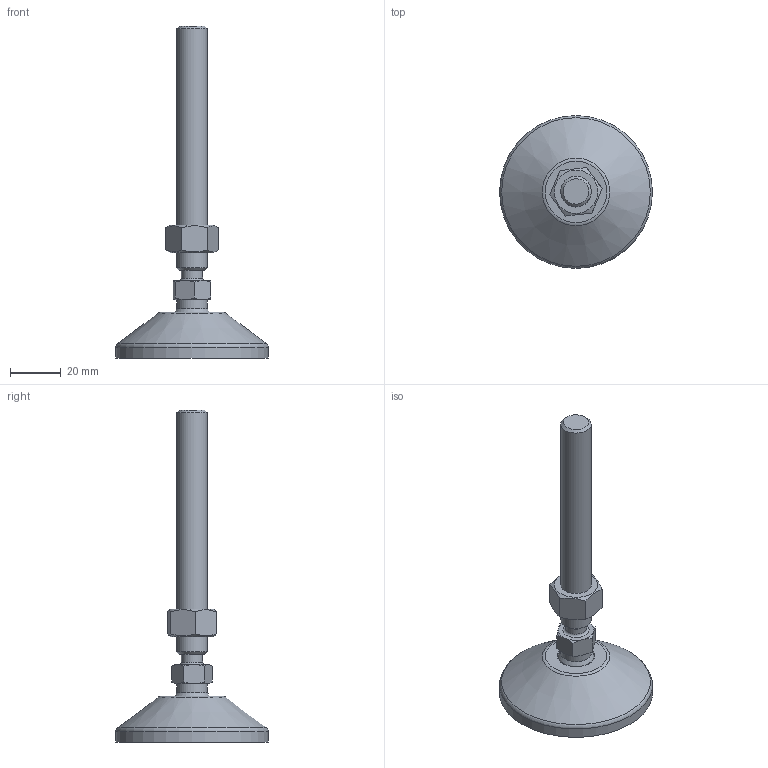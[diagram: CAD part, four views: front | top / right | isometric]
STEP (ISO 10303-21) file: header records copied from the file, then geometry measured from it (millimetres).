
FILE_DESCRIPTION(('STEP AP203'), '1');
FILE_NAME('栖闉罻', '', ('UNSPECIFIED'), ('UNSPECIFIED'), 'C3D Converter', 'C3D Toolkit', '');
FILE_SCHEMA(('CONFIG_CONTROL_DESIGN'));
Length unit declared in the file: millimetre
Products named in the file (4): A00020.112100; A00015.1060
Assembly tree (3 placements, depth 3):
  (unnamed)
    A00020.112100
      (unnamed)
    A00015.1060
Bounding box: 60 x 60 x 130.4 mm (x, y, z)
Volume: 36097.9 mm3; surface area: 16232.2 mm2
Topology: 3 solids, 3 shells, 165 faces, 428 edges, 282 vertices
Faces by surface type: plane 87, cylinder 34, cone 21, torus 21, sphere 2
Full cylindrical faces by diameter (mm): 4 x8, 8.3 x1, 10.647 x1, 12 x2, 14.3 x1, 15 x2, 15.5 x1, 50.5 x1, 60 x1
Entity records: 8635 total; most frequent: CARTESIAN_POINT 3215, DIRECTION 812, ORIENTED_EDGE 786, EDGE_CURVE 393, AXIS2_PLACEMENT_3D 336, VERTEX_POINT 281, EDGE_LOOP 214, FACE_BOUND 174
